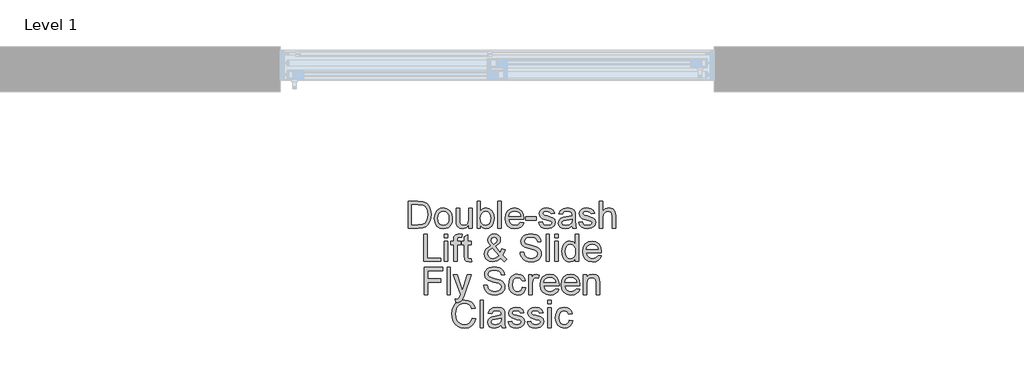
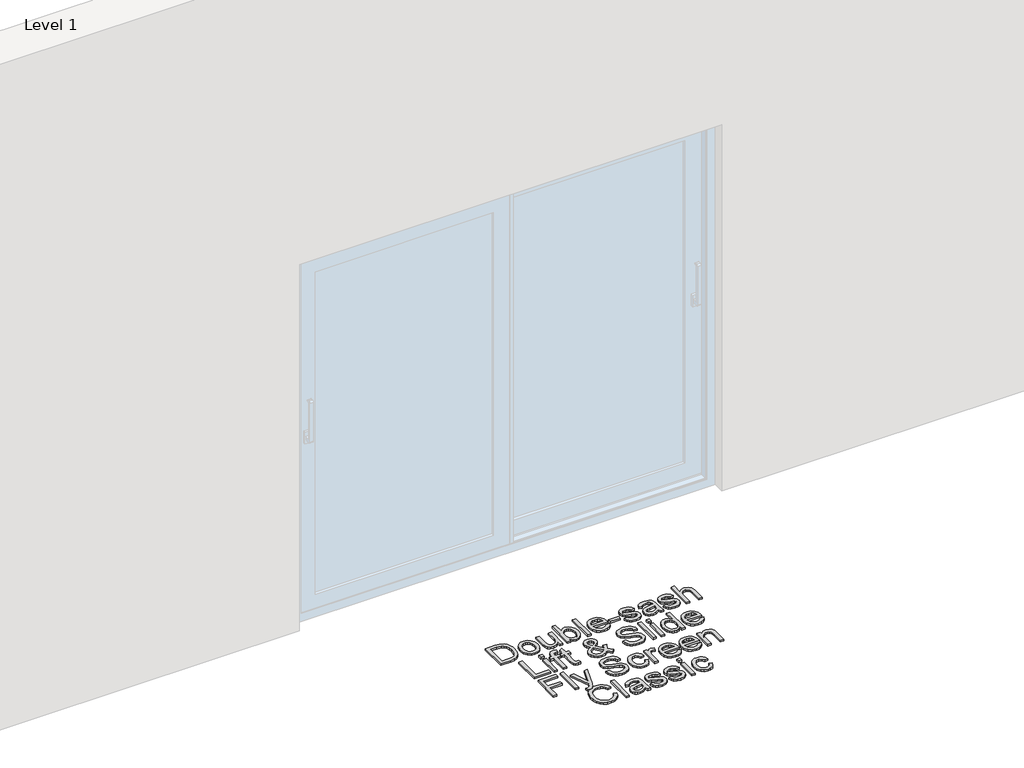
# One storey, part 7 of 17: 1 proxy.
"""IFC4 building model written with IfcOpenShell, lengths in millimetres."""

from ifc_helpers import new_model, si_unit, origin, origin_with_axes, place, context, project, spatial, polyline, outline, extrude, element, save

model = new_model("IFC4")

# Units and contexts
model_context = context("Model", 3, world=origin())
ifc_project = project(units=[si_unit("LENGTHUNIT", "METRE", prefix="MILLI")], contexts=[model_context])

# Site, building, storey
site = spatial("IfcSite", under=ifc_project)
building = spatial("IfcBuilding", under=site)
storey = spatial("IfcBuildingStorey", under=building, Name="Level 1", Elevation=0.0)

# Proxy
placement = place(None, origin())
element("IfcBuildingElementProxy", 1, Name="150mm Arial", ObjectType="150mm Arial", at=placement, inside=storey, context=model_context, shape_type="SweptSolid", body=[
    extrude(outline(polyline([(2688.4009515, -897.6627533), (2688.4009515, -746.9782881), (2740.3826774, -746.9782881), (2767.2748513, -749.1487919), (2789.4213474, -759.9277343), (2799.8416049, -771.4056526), (2807.2636242, -785.679474), (2811.7057993, -802.4732871), (2813.1865243, -821.5111803), (2809.1766105, -851.9166272), (2798.8759147, -873.8607883), (2785.1171281, -887.5276044), (2767.1093044, -895.0875794), (2742.884275, -897.6627533), (2688.4009515, -897.6627533)]), holes=[polyline([(2707.2365097, -878.8271952), (2740.5666184, -878.8271952), (2764.8100419, -876.1048684), (2778.7895577, -868.4161347), (2790.2490819, -849.7093353), (2794.3509661, -821.2168747), (2792.3414107, -800.6890594), (2786.3127445, -785.5323212), (2777.4054017, -775.1212607), (2766.7598165, -768.8304786), (2740.0515836, -765.8138463), (2707.2365097, -765.8138463), (2707.2365097, -878.8271952)])]), origin_with_axes(), (0.0, 0.0, 1.0), 10.0),
    extrude(outline(polyline([(2832.0220824, -842.3333013), (2836.0963755, -815.6526596), (2848.3192548, -796.8998749), (2863.4208107, -787.712022), (2881.5022108, -784.6494044), (2901.2896636, -788.3788081), (2917.0947938, -799.5670193), (2927.4552705, -817.3311212), (2930.9087627, -840.7881969), (2929.3820525, -859.8168931), (2924.8019216, -874.3022466), (2917.3017274, -885.150167), (2907.0148272, -893.2665635), (2894.7965464, -898.3295395), (2881.5022108, -900.0171981), (2861.4756347, -896.30159), (2845.6888986, -885.1547655), (2835.4387865, -867.0181831), (2832.0220824, -842.3333013)]), holes=[polyline([(2850.8576406, -842.2965131), (2853.0373414, -859.343245), (2859.5764439, -871.4879494), (2869.4172873, -878.7582173), (2881.5022108, -881.18164), (2893.531952, -878.7444217), (2903.3544013, -871.4327671), (2909.8935038, -859.1271143), (2912.0732046, -841.7079019), (2909.8797082, -825.1578106), (2903.299219, -813.1786531), (2893.4629742, -805.9083852), (2881.5022108, -803.4849626), (2869.4172873, -805.8991882), (2859.5764439, -813.141865), (2853.0373414, -825.2589782), (2850.8576406, -842.2965131)])]), origin_with_axes(), (0.0, 0.0, 1.0), 10.0),
    extrude(outline(polyline([(3022.7321087, -897.6627533), (3022.7321087, -878.6432542), (3007.9800407, -894.6737121), (2988.7398124, -900.0171981), (2971.0262943, -896.2648018), (2958.8126121, -886.8470227), (2953.2024117, -872.9778715), (2952.0987657, -855.4666885), (2952.0987657, -787.0038492), (2970.9343238, -787.0038492), (2970.9343238, -846.6007324), (2972.074758, -865.8041726), (2979.5243684, -877.0797557), (2993.5590665, -881.18164), (3009.2860218, -876.9877852), (3019.6786882, -865.5650493), (3022.7321087, -844.5773814), (3022.7321087, -787.0038492), (3041.5676669, -787.0038492), (3041.5676669, -897.6627533), (3022.7321087, -897.6627533)])), origin_with_axes(), (0.0, 0.0, 1.0), 10.0),
    extrude(outline(polyline([(3086.3021175, -897.6627533), (3067.4665594, -897.6627533), (3067.4665594, -746.9782881), (3086.3021175, -746.9782881), (3086.3021175, -802.8595632), (3099.490687, -789.2019441), (3115.8798299, -784.6494044), (3134.7521763, -788.7512887), (3149.3938797, -800.2843892), (3158.3885945, -818.2186365), (3161.6443501, -840.6778323), (3158.2736313, -865.8225667), (3148.161475, -884.5293661), (3133.322035, -896.1452401), (3115.7694653, -900.0171981), (3099.0216375, -895.0232), (3086.3021175, -880.0412058), (3086.3021175, -897.6627533)]), holes=[polyline([(3086.3021175, -841.5607491), (3087.5897045, -857.2693103), (3091.4524654, -867.9010999), (3101.3209, -877.861505), (3114.1507845, -881.18164), (3125.0216975, -878.7352247), (3134.3107179, -871.3959789), (3140.6842734, -859.2098878), (3142.808792, -842.2229367), (3140.7716454, -824.9876652), (3134.6602058, -812.9395299), (3125.6608925, -805.8486044), (3114.9601249, -803.4849626), (3104.089212, -805.9313778), (3094.8001916, -813.2706236), (3088.426636, -825.2359855), (3086.3021175, -841.5607491)])]), origin_with_axes(), (0.0, 0.0, 1.0), 10.0),
    extrude(outline(polyline([(3182.834353, -897.6627533), (3182.834353, -746.9782881), (3201.6699112, -746.9782881), (3201.6699112, -897.6627533), (3182.834353, -897.6627533)])), origin_with_axes(), (0.0, 0.0, 1.0), 10.0),
    extrude(outline(polyline([(3307.3991966, -864.7005266), (3325.8668728, -867.0549713), (3319.2128072, -880.9701078), (3308.5948131, -891.3719712), (3294.2520138, -897.8558914), (3276.4235326, -900.0171981), (3254.3230218, -896.2877944), (3237.3176765, -885.0995832), (3226.4743547, -867.1791315), (3222.8599141, -843.2530063), (3226.5111429, -818.5221391), (3237.4648293, -800.0268718), (3254.2402483, -788.4937713), (3275.3566748, -784.6494044), (3295.8155123, -788.4845742), (3312.1632684, -799.9900836), (3322.8824301, -818.4485627), (3326.455484, -843.1426417), (3326.3451194, -848.2194132), (3241.6954723, -848.2194132), (3244.9558265, -862.3184907), (3252.529597, -872.6835659), (3263.4602908, -879.0571214), (3276.7914146, -881.18164), (3295.2590908, -877.2453026), (3307.3991966, -864.7005266)]), holes=[polyline([(3241.6954723, -829.383855), (3307.6199258, -829.383855), (3305.072343, -819.4326471), (3300.0783449, -812.3141305), (3289.0970674, -805.6922545), (3275.2830984, -803.4849626), (3262.5865711, -805.2461976), (3252.0881386, -810.5299028), (3244.7902796, -818.765861), (3241.6954723, -829.383855)])]), origin_with_axes(), (0.0, 0.0, 1.0), 10.0),
    extrude(outline(polyline([(3335.873263, -852.9283027), (3335.873263, -834.0927446), (3394.7343823, -834.0927446), (3394.7343823, -852.9283027), (3335.873263, -852.9283027)])), origin_with_axes(), (0.0, 0.0, 1.0), 10.0),
    extrude(outline(polyline([(3408.8610509, -864.7005266), (3427.696609, -862.3460818), (3430.6672561, -870.4026975), (3436.4154123, -876.3255976), (3456.3914047, -881.18164), (3475.5948448, -876.7302678), (3481.8488387, -866.2824192), (3480.2761432, -861.4815591), (3475.5580566, -857.8211333), (3456.1706755, -852.4500561), (3427.8069736, -843.2346122), (3415.4277445, -832.4740638), (3411.2154956, -817.2805374), (3414.60001, -803.2458393), (3423.8338481, -792.5220791), (3435.808407, -786.9486669), (3452.0136089, -784.6494044), (3474.9326572, -788.3466185), (3489.5007842, -798.3530087), (3495.9755073, -815.2571864), (3477.1399492, -817.6116312), (3470.0582208, -807.2189648), (3453.4851369, -803.4849626), (3435.4589191, -807.0534179), (3430.0510538, -815.367551), (3432.295134, -820.8489927), (3439.3216801, -825.0060593), (3455.5452761, -829.015973), (3483.191608, -837.8819291), (3496.0306896, -847.9251076), (3500.6843969, -864.2958564), (3495.2213492, -882.3220741), (3479.4576058, -895.4002791), (3456.1338873, -900.0171981), (3437.1419793, -897.791512), (3423.2820251, -891.1144538), (3414.0297929, -880.0595999), (3408.8610509, -864.7005266)])), origin_with_axes(), (0.0, 0.0, 1.0), 10.0),
    extrude(outline(polyline([(3592.5077429, -883.5360847), (3574.2424018, -896.30159), (3554.0640744, -900.0171981), (3538.3233235, -897.782315), (3526.712048, -891.0776656), (3519.5521447, -880.8965314), (3517.1655103, -868.2321937), (3520.7707538, -853.3329729), (3530.2437152, -842.5172423), (3543.4322847, -836.3368247), (3559.7294571, -833.5041334), (3592.3973783, -827.0294103), (3592.5077429, -822.8355555), (3591.2109588, -814.4294519), (3587.3206067, -808.9296161), (3578.6201976, -804.846126), (3566.4984858, -803.4849626), (3547.4421985, -807.1086002), (3538.3555132, -819.966076), (3519.519955, -817.6116312), (3527.6685412, -799.2175314), (3544.0760782, -788.438589), (3568.926507, -784.6494044), (3591.7535848, -787.9971306), (3604.6478487, -796.4032342), (3610.423596, -809.1871335), (3611.343301, -825.6682469), (3611.343301, -849.10233), (3612.2997942, -881.8254334), (3616.0521906, -897.6627533), (3597.2166324, -897.6627533), (3592.5077429, -883.5360847)]), holes=[polyline([(3592.5077429, -845.8649684), (3562.1206901, -851.6407157), (3545.9154882, -854.6941363), (3538.5762424, -859.6605432), (3536.0010684, -866.9078185), (3541.6112688, -877.0981498), (3558.0739881, -881.18164), (3577.1302755, -876.6750855), (3589.4175341, -865.7673844), (3592.3973783, -851.1992574), (3592.5077429, -845.8649684)])]), origin_with_axes(), (0.0, 0.0, 1.0), 10.0),
    extrude(outline(polyline([(3630.1788592, -864.7005266), (3649.0144173, -862.3460818), (3651.9850644, -870.4026975), (3657.7332206, -876.3255976), (3677.709213, -881.18164), (3696.9126531, -876.7302678), (3703.166647, -866.2824192), (3701.5939515, -861.4815591), (3696.8758649, -857.8211333), (3677.4884838, -852.4500561), (3649.1247819, -843.2346122), (3636.7455528, -832.4740638), (3632.5333039, -817.2805374), (3635.9178183, -803.2458393), (3645.1516564, -792.5220791), (3657.1262153, -786.9486669), (3673.3314172, -784.6494044), (3696.2504655, -788.3466185), (3710.8185925, -798.3530087), (3717.2933156, -815.2571864), (3698.4577575, -817.6116312), (3691.3760291, -807.2189648), (3674.8029452, -803.4849626), (3656.7767274, -807.0534179), (3651.3688621, -815.367551), (3653.6129423, -820.8489927), (3660.6394884, -825.0060593), (3676.8630844, -829.015973), (3704.5094163, -837.8819291), (3717.3484979, -847.9251076), (3722.0022052, -864.2958564), (3716.5391575, -882.3220741), (3700.7754141, -895.4002791), (3677.4516956, -900.0171981), (3658.4597876, -897.791512), (3644.5998334, -891.1144538), (3635.3476012, -880.0595999), (3630.1788592, -864.7005266)])), origin_with_axes(), (0.0, 0.0, 1.0), 10.0),
    extrude(outline(polyline([(3743.1922081, -897.6627533), (3743.1922081, -746.9782881), (3762.0277662, -746.9782881), (3762.0277662, -802.3813166), (3776.7154549, -789.0823825), (3794.806052, -784.6494044), (3815.9592667, -789.4870527), (3828.7983484, -802.8595632), (3832.6611093, -827.6180215), (3832.6611093, -897.6627533), (3813.8255512, -897.6627533), (3813.8255512, -829.567796), (3812.326432, -817.7771781), (3807.8290746, -809.7021683), (3800.5817993, -805.039264), (3790.8329265, -803.4849626), (3775.4002768, -807.6788173), (3765.0995809, -819.046371), (3762.0277662, -838.8752105), (3762.0277662, -897.6627533), (3743.1922081, -897.6627533)])), origin_with_axes(), (0.0, 0.0, 1.0), 10.0),
    extrude(outline(polyline([(2773.1609632, -1080.6249801), (2773.1609632, -929.9405149), (2791.9965214, -929.9405149), (2791.9965214, -1061.789422), (2867.338754, -1061.789422), (2867.338754, -1080.6249801), (2773.1609632, -1080.6249801)])), origin_with_axes(), (0.0, 0.0, 1.0), 10.0),
    extrude(outline(polyline([(2886.1743121, -948.776073), (2886.1743121, -929.9405149), (2905.0098703, -929.9405149), (2905.0098703, -948.776073), (2886.1743121, -948.776073)])), origin_with_axes(), (0.0, 0.0, 1.0), 10.0),
    extrude(outline(polyline([(2886.1743121, -1080.6249801), (2886.1743121, -969.966076), (2905.0098703, -969.966076), (2905.0098703, -1080.6249801), (2886.1743121, -1080.6249801)])), origin_with_axes(), (0.0, 0.0, 1.0), 10.0),
    extrude(outline(polyline([(2937.9720971, -1080.6249801), (2937.9720971, -988.8016341), (2921.4909837, -988.8016341), (2921.4909837, -969.966076), (2937.9720971, -969.966076), (2937.9720971, -958.8192515), (2939.9586598, -943.1106903), (2949.5971681, -931.8902895), (2968.5798791, -927.5860701), (2985.7599682, -929.6462093), (2983.0008533, -947.3045451), (2972.1483344, -946.4216283), (2960.2841401, -949.5486252), (2956.8076552, -961.2104845), (2956.8076552, -969.966076), (2977.9976581, -969.966076), (2977.9976581, -988.8016341), (2956.8076552, -988.8016341), (2956.8076552, -1080.6249801), (2937.9720971, -1080.6249801)])), origin_with_axes(), (0.0, 0.0, 1.0), 10.0),
    extrude(outline(polyline([(3034.5043326, -1064.9164189), (3036.8587774, -1081.1768031), (3022.7688969, -1082.9794249), (3006.9867593, -1079.8524279), (2999.1140847, -1071.6486594), (2996.8332163, -1050.2747155), (2996.8332163, -988.8016341), (2982.7065477, -988.8016341), (2982.7065477, -969.966076), (2996.8332163, -969.966076), (2996.8332163, -943.0739021), (3015.6687744, -932.0006541), (3015.6687744, -969.966076), (3034.5043326, -969.966076), (3034.5043326, -988.8016341), (3015.6687744, -988.8016341), (3015.6687744, -1049.7228925), (3016.6620558, -1059.4349772), (3019.8810233, -1062.8746738), (3026.3005641, -1064.1438667), (3034.5043326, -1064.9164189)])), origin_with_axes(), (0.0, 0.0, 1.0), 10.0),
    extrude(outline(polyline([(3198.6164906, -1062.0101512), (3178.6404983, -1077.7371064), (3155.2799916, -1082.9794249), (3134.4946589, -1079.0982698), (3118.4917921, -1067.4548047), (3110.2420383, -1054.054703), (3107.4921204, -1039.1646793), (3109.7040109, -1025.9669127), (3116.3396824, -1014.1119154), (3127.3715437, -1003.6088844), (3142.7720038, -994.4670168), (3129.6202224, -975.4107295), (3126.3276786, -961.2840609), (3128.9212467, -948.5645409), (3136.7019508, -937.6292486), (3148.4097953, -930.0968647), (3162.7847843, -927.5860701), (3176.4607975, -929.9865001), (3187.3960898, -937.1877902), (3194.5697887, -947.7552005), (3196.9610217, -960.2539913), (3195.1905896, -970.7478252), (3189.8792933, -980.4507128), (3168.634108, -997.4836492), (3195.8941639, -1031.4391574), (3204.024356, -1010.5802482), (3222.8599141, -1014.6637384), (3209.5425859, -1045.6761906), (3232.2776932, -1068.4848743), (3218.1510246, -1082.9794249), (3198.6164906, -1062.0101512)]), holes=[polyline([(3159.1059644, -985.6010608), (3174.5937964, -973.9208074), (3178.1254635, -962.8291653), (3173.4717563, -951.0017591), (3161.8282911, -946.4216283), (3149.9273086, -950.9649709), (3145.1632367, -962.0566131), (3146.7819175, -968.9544005), (3151.6747481, -976.6247401), (3159.1059644, -985.6010608)]), polyline([(3185.9981382, -1048.4353055), (3152.3737238, -1006.4599699), (3131.6803616, -1022.2421075), (3126.3276786, -1036.6630817), (3128.1578915, -1045.5474319), (3133.6485303, -1054.7628758), (3142.4960923, -1061.798619), (3154.3970748, -1064.1438667), (3171.7059227, -1059.766071), (3185.9981382, -1048.4353055)])]), origin_with_axes(), (0.0, 0.0, 1.0), 10.0),
    extrude(outline(polyline([(3305.265481, -1028.8271952), (3324.1010392, -1028.8271952), (3330.1710921, -1047.6811474), (3344.9967365, -1059.6005241), (3367.584691, -1064.1438667), (3387.2663778, -1060.7041701), (3399.9767007, -1051.2496028), (3404.1521613, -1038.6128563), (3401.0251644, -1026.8590265), (3388.222871, -1018.3057701), (3360.7972682, -1011.1136771), (3331.2747381, -1001.8246567), (3315.2534772, -987.8083527), (3309.9743706, -969.0831592), (3311.6068469, -958.0512978), (3316.504276, -947.7643976), (3324.5378991, -939.0455943), (3335.5789574, -932.7180239), (3363.5012009, -927.5860701), (3393.2996425, -932.9571472), (3404.7223784, -939.5882202), (3413.1652702, -948.7392848), (3418.5087562, -959.840124), (3420.6332747, -972.3205207), (3401.7977166, -972.3205207), (3398.3396258, -961.0817258), (3391.1291387, -952.9699278), (3379.8627526, -948.0587031), (3364.2369649, -946.4216283), (3348.2432951, -948.040309), (3337.2712146, -952.8963514), (3330.9252502, -960.0424591), (3328.8099287, -968.5313362), (3330.3090479, -975.7694144), (3334.8064053, -981.591147), (3365.56134, -992.1125721), (3398.8914488, -1001.5671393), (3409.6290045, -1008.4005474), (3417.1200017, -1016.8342421), (3421.52079, -1026.7762531), (3422.9877195, -1038.1346097), (3421.3000608, -1049.7458851), (3416.2370849, -1060.6673819), (3408.0057252, -1070.0667668), (3396.8129155, -1077.1117071), (3383.353033, -1081.5124954), (3368.320455, -1082.9794249), (3349.8665744, -1081.3975323), (3334.6776466, -1076.6518546), (3322.5789274, -1068.7239976), (3313.3956731, -1057.5955672), (3307.5003642, -1044.0391157), (3305.265481, -1028.8271952)])), origin_with_axes(), (0.0, 0.0, 1.0), 10.0),
    extrude(outline(polyline([(3448.886612, -1080.6249801), (3448.886612, -929.9405149), (3467.7221701, -929.9405149), (3467.7221701, -1080.6249801), (3448.886612, -1080.6249801)])), origin_with_axes(), (0.0, 0.0, 1.0), 10.0),
    extrude(outline(polyline([(3495.9755073, -948.776073), (3495.9755073, -929.9405149), (3514.8110655, -929.9405149), (3514.8110655, -948.776073), (3495.9755073, -948.776073)])), origin_with_axes(), (0.0, 0.0, 1.0), 10.0),
    extrude(outline(polyline([(3495.9755073, -1080.6249801), (3495.9755073, -969.966076), (3514.8110655, -969.966076), (3514.8110655, -1080.6249801), (3495.9755073, -1080.6249801)])), origin_with_axes(), (0.0, 0.0, 1.0), 10.0),
    extrude(outline(polyline([(3611.343301, -1080.6249801), (3611.343301, -1062.8562797), (3598.8812984, -1077.9486386), (3581.655224, -1082.9794249), (3569.47833, -1081.158409), (3558.3315055, -1075.6953614), (3548.8953323, -1066.9719596), (3541.8503921, -1055.3698811), (3537.4633993, -1041.3581756), (3536.0010684, -1025.4058926), (3541.3905396, -995.42351), (3548.1227802, -983.5317245), (3557.5405592, -974.7853301), (3568.9311055, -969.4050559), (3581.5816476, -967.6116312), (3598.9456778, -972.743585), (3611.343301, -986.0793073), (3611.343301, -929.9405149), (3630.1788592, -929.9405149), (3630.1788592, -1080.6249801), (3611.343301, -1080.6249801)]), holes=[polyline([(3554.8366266, -1025.3323162), (3556.9611451, -1042.3698511), (3563.3347007, -1054.4869644), (3572.5961299, -1061.7296411), (3583.3842694, -1064.1438667), (3594.1678104, -1061.8400057), (3603.1947148, -1054.9284227), (3609.3061545, -1043.2803591), (3611.343301, -1026.767056), (3609.2693663, -1008.7132471), (3603.047562, -996.1960622), (3593.7907313, -988.8844076), (3582.6117172, -986.4471893), (3571.7132131, -988.7878385), (3562.7828777, -995.8097861), (3556.8231893, -1007.871717), (3554.8366266, -1025.3323162)])]), origin_with_axes(), (0.0, 0.0, 1.0), 10.0),
    extrude(outline(polyline([(3735.9081446, -1047.6627533), (3754.3758208, -1050.0171981), (3747.7217552, -1063.9323346), (3737.1037611, -1074.334198), (3722.7609618, -1080.8181182), (3704.9324806, -1082.9794249), (3682.8319697, -1079.2500212), (3665.8266245, -1068.06181), (3654.9833027, -1050.1413583), (3651.3688621, -1026.215233), (3655.0200909, -1001.4843659), (3665.9737773, -982.9890986), (3682.7491963, -971.455998), (3703.8656228, -967.6116312), (3724.3244603, -971.446801), (3740.6722164, -982.9523104), (3751.3913781, -1001.4107895), (3754.9644319, -1026.1048684), (3754.8540673, -1031.18164), (3670.2044203, -1031.18164), (3673.4647744, -1045.2807174), (3681.038545, -1055.6457926), (3691.9692388, -1062.0193482), (3705.3003626, -1064.1438667), (3723.7680388, -1060.2075294), (3735.9081446, -1047.6627533)]), holes=[polyline([(3670.2044203, -1012.3460818), (3736.1288738, -1012.3460818), (3733.581291, -1002.3948738), (3728.5872929, -995.2763572), (3717.6060153, -988.6544813), (3703.7920464, -986.4471893), (3691.0955191, -988.2084244), (3680.5970866, -993.4921296), (3673.2992275, -1001.7280877), (3670.2044203, -1012.3460818)])]), origin_with_axes(), (0.0, 0.0, 1.0), 10.0),
    extrude(outline(polyline([(2776.6926304, -1263.5872069), (2776.6926304, -1112.9027417), (2877.9337554, -1112.9027417), (2877.9337554, -1131.7382998), (2795.5281885, -1131.7382998), (2795.5281885, -1176.4727504), (2866.1615316, -1176.4727504), (2866.1615316, -1195.3083086), (2795.5281885, -1195.3083086), (2795.5281885, -1263.5872069), (2776.6926304, -1263.5872069)])), origin_with_axes(), (0.0, 0.0, 1.0), 10.0),
    extrude(outline(polyline([(2901.4782031, -1263.5872069), (2901.4782031, -1112.9027417), (2920.3137613, -1112.9027417), (2920.3137613, -1263.5872069), (2901.4782031, -1263.5872069)])), origin_with_axes(), (0.0, 0.0, 1.0), 10.0),
    extrude(outline(polyline([(2948.5670985, -1305.9672127), (2946.2126537, -1287.8306304), (2955.7775856, -1289.4860993), (2964.7171181, -1287.4075661), (2970.1985598, -1281.6134246), (2975.3489078, -1267.7442734), (2976.8204357, -1263.1825367), (2936.7948747, -1152.9283027), (2956.6605024, -1152.9283027), (2977.8872935, -1214.3645959), (2985.2817216, -1238.9391132), (2992.6761497, -1217.2340755), (3014.4915521, -1152.9283027), (3034.210027, -1152.9283027), (2995.6927821, -1266.2359572), (2985.6863918, -1290.8104745), (2974.7602966, -1304.0910145), (2960.081805, -1308.3216575), (2948.5670985, -1305.9672127)])), origin_with_axes(), (0.0, 0.0, 1.0), 10.0),
    extrude(outline(polyline([(3103.9604533, -1211.789422), (3122.7960114, -1211.789422), (3128.8660644, -1230.6433742), (3143.6917088, -1242.5627509), (3166.2796633, -1247.1060935), (3185.96135, -1243.6663968), (3198.6716729, -1234.2118296), (3202.8471336, -1221.575083), (3199.7201366, -1209.8212533), (3186.9178432, -1201.2679969), (3159.4922404, -1194.0759039), (3129.9697103, -1184.7868835), (3113.9484494, -1170.7705795), (3108.6693428, -1152.0453859), (3110.3018192, -1141.0135246), (3115.1992482, -1130.7266243), (3123.2328713, -1122.007821), (3134.2739297, -1115.6802507), (3162.1961731, -1110.5482969), (3191.9946147, -1115.919374), (3203.4173507, -1122.550447), (3211.8602425, -1131.7015116), (3217.2037284, -1142.8023508), (3219.328247, -1155.2827475), (3200.4926888, -1155.2827475), (3197.0345981, -1144.0439525), (3189.824111, -1135.9321546), (3178.5577248, -1131.0209299), (3162.9319371, -1129.383855), (3146.9382674, -1131.0025358), (3135.9661869, -1135.8585782), (3129.6202224, -1143.0046859), (3127.504901, -1151.4935629), (3129.0040201, -1158.7316412), (3133.5013775, -1164.5533738), (3164.2563123, -1175.0747988), (3197.5864211, -1184.5293661), (3208.3239768, -1191.3627742), (3215.8149739, -1199.7964689), (3220.2157623, -1209.7384798), (3221.6826917, -1221.0968364), (3219.9950331, -1232.7081119), (3214.9320571, -1243.6296086), (3206.7006975, -1253.0289936), (3195.5078878, -1260.0739338), (3182.0480053, -1264.4747222), (3167.0154273, -1265.9416516), (3148.5615467, -1264.3597591), (3133.3726188, -1259.6140813), (3121.2738997, -1251.6862243), (3112.0906454, -1240.557794), (3106.1953364, -1227.0013425), (3103.9604533, -1211.789422)])), origin_with_axes(), (0.0, 0.0, 1.0), 10.0),
    extrude(outline(polyline([(3318.2149273, -1223.5616458), (3337.0504854, -1225.9160906), (3331.7989699, -1242.6685169), (3321.9305354, -1255.3282561), (3308.3740839, -1263.2883028), (3292.0585174, -1265.9416516), (3272.0227442, -1262.2398391), (3256.3555698, -1251.1344013), (3246.2434134, -1233.1127821), (3242.8726947, -1208.662425), (3244.312033, -1191.9008016), (3248.6300479, -1177.3740613), (3255.8957173, -1165.6432242), (3266.1780191, -1157.2693103), (3278.4790733, -1152.247721), (3291.801, -1150.573858), (3307.7164948, -1152.8731204), (3320.4406133, -1159.7709078), (3329.5686853, -1170.8993382), (3334.6960407, -1185.8905295), (3315.8604825, -1188.2449743), (3307.1232851, -1174.1366998), (3291.9481528, -1169.4094161), (3279.7758573, -1171.7362697), (3270.1143564, -1178.7168306), (3263.8097787, -1190.7281777), (3261.7082528, -1208.1473902), (3263.7637935, -1225.8011274), (3269.9304154, -1237.8538613), (3279.4171724, -1244.7930354), (3291.433118, -1247.1060935), (3301.1865894, -1245.6621567), (3309.1834243, -1241.3303462), (3315.0005583, -1234.0002974), (3318.2149273, -1223.5616458)])), origin_with_axes(), (0.0, 0.0, 1.0), 10.0),
    extrude(outline(polyline([(3353.5315988, -1263.5872069), (3353.5315988, -1152.9283027), (3370.0127122, -1152.9283027), (3370.0127122, -1169.2990515), (3381.7113596, -1154.2158897), (3393.4835835, -1150.573858), (3412.392718, -1156.3863935), (3406.1019359, -1173.2721771), (3392.8581841, -1169.4094161), (3382.2080003, -1173.1250243), (3375.4205775, -1183.4257201), (3372.367157, -1205.4250634), (3372.367157, -1263.5872069), (3353.5315988, -1263.5872069)])), origin_with_axes(), (0.0, 0.0, 1.0), 10.0),
    extrude(outline(polyline([(3501.6408901, -1230.6249801), (3520.1085662, -1232.9794249), (3513.4545006, -1246.8945613), (3502.8365065, -1257.2964248), (3488.4937073, -1263.7803449), (3470.6652261, -1265.9416516), (3448.5647152, -1262.2122479), (3431.55937, -1251.0240367), (3420.7160482, -1233.1035851), (3417.1016076, -1209.1774598), (3420.7528364, -1184.4465927), (3431.7065228, -1165.9513254), (3448.4819418, -1154.4182248), (3469.5983683, -1150.573858), (3490.0572057, -1154.4090278), (3506.4049619, -1165.9145372), (3517.1241235, -1184.3730163), (3520.6971774, -1209.0670952), (3520.5868128, -1214.1438667), (3435.9371657, -1214.1438667), (3439.1975199, -1228.2429442), (3446.7712905, -1238.6080194), (3457.7019843, -1244.981575), (3471.0331081, -1247.1060935), (3489.5007842, -1243.1697561), (3501.6408901, -1230.6249801)]), holes=[polyline([(3435.9371657, -1195.3083086), (3501.8616193, -1195.3083086), (3499.3140364, -1185.3571006), (3494.3200384, -1178.238584), (3483.3387608, -1171.6167081), (3469.5247919, -1169.4094161), (3456.8282645, -1171.1706512), (3446.3298321, -1176.4543563), (3439.031973, -1184.6903145), (3435.9371657, -1195.3083086)])]), origin_with_axes(), (0.0, 0.0, 1.0), 10.0),
    extrude(outline(polyline([(3617.0086838, -1230.6249801), (3635.4763599, -1232.9794249), (3628.8222943, -1246.8945613), (3618.2043002, -1257.2964248), (3603.8615009, -1263.7803449), (3586.0330198, -1265.9416516), (3563.9325089, -1262.2122479), (3546.9271637, -1251.0240367), (3536.0838419, -1233.1035851), (3532.4694013, -1209.1774598), (3536.1206301, -1184.4465927), (3547.0743165, -1165.9513254), (3563.8497354, -1154.4182248), (3584.966162, -1150.573858), (3605.4249994, -1154.4090278), (3621.7727556, -1165.9145372), (3632.4919172, -1184.3730163), (3636.0649711, -1209.0670952), (3635.9546065, -1214.1438667), (3551.3049594, -1214.1438667), (3554.5653136, -1228.2429442), (3562.1390842, -1238.6080194), (3573.069778, -1244.981575), (3586.4009018, -1247.1060935), (3604.8685779, -1243.1697561), (3617.0086838, -1230.6249801)]), holes=[polyline([(3551.3049594, -1195.3083086), (3617.2294129, -1195.3083086), (3614.6818301, -1185.3571006), (3609.687832, -1178.238584), (3598.7065545, -1171.6167081), (3584.8925856, -1169.4094161), (3572.1960582, -1171.1706512), (3561.6976258, -1176.4543563), (3554.3997667, -1184.6903145), (3551.3049594, -1195.3083086)])]), origin_with_axes(), (0.0, 0.0, 1.0), 10.0),
    extrude(outline(polyline([(3654.9005293, -1263.5872069), (3654.9005293, -1152.9283027), (3673.7360874, -1152.9283027), (3673.7360874, -1168.3793465), (3688.1386675, -1155.0252301), (3707.8019602, -1150.573858), (3725.5890546, -1154.1607074), (3737.7291605, -1163.5784865), (3743.3761491, -1177.4292436), (3744.3694305, -1195.6394024), (3744.3694305, -1263.5872069), (3725.5338723, -1263.5872069), (3725.5338723, -1198.1777881), (3723.3633686, -1181.5127338), (3715.693029, -1172.70196), (3702.7619768, -1169.4094161), (3691.7301155, -1171.2580231), (3682.326132, -1176.8038442), (3675.8835986, -1187.5184073), (3673.7360874, -1204.8732404), (3673.7360874, -1263.5872069), (3654.9005293, -1263.5872069)])), origin_with_axes(), (0.0, 0.0, 1.0), 10.0),
    extrude(outline(polyline([(3041.5676669, -1392.9858151), (3060.403225, -1397.8418575), (3051.7120129, -1419.790617), (3038.0727879, -1435.8256735), (3020.1569348, -1445.6343272), (2998.6358381, -1448.9038784), (2976.7882461, -1446.429872), (2959.4380115, -1439.0078527), (2946.1390773, -1426.8953381), (2936.4453868, -1410.3498453), (2930.5270852, -1390.8980848), (2928.554318, -1370.0667668), (2930.7846026, -1348.0950147), (2937.4754564, -1329.1215008), (2948.2773914, -1313.7486319), (2962.8409199, -1302.5788148), (2980.1129796, -1295.7775964), (2999.0405083, -1293.5105237), (3019.6924838, -1296.4443826), (3036.7668069, -1305.2459593), (3049.7300487, -1319.3726279), (3058.0487803, -1338.2817625), (3039.2132221, -1342.7699228), (3032.6833167, -1329.0341288), (3023.7621783, -1319.6117512), (3012.3394424, -1314.1624992), (2998.3047443, -1312.3460818), (2982.1271335, -1314.3602357), (2968.8373964, -1320.4026975), (2958.7528313, -1329.8388707), (2952.1907362, -1342.0341588), (2947.3898761, -1370.0299786), (2948.8108203, -1387.430797), (2953.073653, -1402.4771706), (2960.3393224, -1414.5942838), (2970.7687769, -1423.2073211), (2983.2721662, -1428.3530705), (2996.7596399, -1430.0683203), (3012.4819967, -1427.7322696), (3025.5831942, -1420.7241176), (3035.4746214, -1409.1174406), (3041.5676669, -1392.9858151)])), origin_with_axes(), (0.0, 0.0, 1.0), 10.0),
    extrude(outline(polyline([(3083.9476727, -1446.5494336), (3083.9476727, -1295.8649684), (3102.7832309, -1295.8649684), (3102.7832309, -1446.5494336), (3083.9476727, -1446.5494336)])), origin_with_axes(), (0.0, 0.0, 1.0), 10.0),
    extrude(outline(polyline([(3201.6699112, -1432.422765), (3183.4045701, -1445.1882703), (3163.2262427, -1448.9038784), (3147.4854918, -1446.6689953), (3135.8742164, -1439.9643459), (3128.714313, -1429.7832117), (3126.3276786, -1417.118874), (3129.9329221, -1402.2196532), (3139.4058835, -1391.4039226), (3152.594453, -1385.223505), (3168.8916254, -1382.3908137), (3201.5595466, -1375.9160906), (3201.6699112, -1371.7222358), (3200.3731272, -1363.3161322), (3196.4827751, -1357.8162964), (3187.7823659, -1353.7328063), (3175.6606541, -1352.3716429), (3156.6043668, -1355.9952805), (3147.5176815, -1368.8527563), (3128.6821234, -1366.4983115), (3136.8307095, -1348.1042117), (3153.2382465, -1337.3252693), (3178.0886753, -1333.5360847), (3200.9157531, -1336.8838109), (3213.810017, -1345.2899145), (3219.5857644, -1358.0738138), (3220.5054693, -1374.5549272), (3220.5054693, -1397.9890103), (3221.4619625, -1430.7121138), (3225.2143589, -1446.5494336), (3206.3788007, -1446.5494336), (3201.6699112, -1432.422765)]), holes=[polyline([(3201.6699112, -1394.7516487), (3171.2828584, -1400.527396), (3155.0776565, -1403.5808166), (3147.7384107, -1408.5472235), (3145.1632367, -1415.7944988), (3150.7734372, -1425.9848301), (3167.2361564, -1430.0683203), (3186.2924438, -1425.5617658), (3198.5797024, -1414.6540647), (3201.5595466, -1400.0859377), (3201.6699112, -1394.7516487)])]), origin_with_axes(), (0.0, 0.0, 1.0), 10.0),
    extrude(outline(polyline([(3239.3410275, -1413.5872069), (3258.1765857, -1411.2327621), (3261.1472328, -1419.2893778), (3266.8953889, -1425.2122779), (3286.8713813, -1430.0683203), (3306.0748214, -1425.6169481), (3312.3288153, -1415.1690995), (3310.7561198, -1410.3682394), (3306.0380332, -1406.7078136), (3286.6506521, -1401.3367364), (3258.2869503, -1392.1212925), (3245.9077211, -1381.3607441), (3241.6954723, -1366.1672177), (3245.0799866, -1352.1325196), (3254.3138247, -1341.4087594), (3266.2883836, -1335.8353472), (3282.4935855, -1333.5360847), (3305.4126338, -1337.2332988), (3319.9807608, -1347.239689), (3326.455484, -1364.1438667), (3307.6199258, -1366.4983115), (3300.5381974, -1356.1056451), (3283.9651135, -1352.3716429), (3265.9388958, -1355.9400982), (3260.5310304, -1364.2542313), (3262.7751106, -1369.7356731), (3269.8016567, -1373.8927396), (3286.0252527, -1377.9026533), (3313.6715846, -1386.7686094), (3326.5106663, -1396.8117879), (3331.1643735, -1413.1825367), (3325.7013259, -1431.2087544), (3309.9375824, -1444.2869594), (3286.6138639, -1448.9038784), (3267.6219559, -1446.6781923), (3253.7620017, -1440.0011341), (3244.5097695, -1428.9462802), (3239.3410275, -1413.5872069)])), origin_with_axes(), (0.0, 0.0, 1.0), 10.0),
    extrude(outline(polyline([(3345.2910421, -1413.5872069), (3364.1266003, -1411.2327621), (3367.0972474, -1419.2893778), (3372.8454036, -1425.2122779), (3392.8213959, -1430.0683203), (3412.024836, -1425.6169481), (3418.27883, -1415.1690995), (3416.7061344, -1410.3682394), (3411.9880478, -1406.7078136), (3392.6006667, -1401.3367364), (3364.2369649, -1392.1212925), (3351.8577357, -1381.3607441), (3347.6454869, -1366.1672177), (3351.0300012, -1352.1325196), (3360.2638393, -1341.4087594), (3372.2383983, -1335.8353472), (3388.4436001, -1333.5360847), (3411.3626484, -1337.2332988), (3425.9307755, -1347.239689), (3432.4054986, -1364.1438667), (3413.5699404, -1366.4983115), (3406.488212, -1356.1056451), (3389.9151281, -1352.3716429), (3371.8889104, -1355.9400982), (3366.481045, -1364.2542313), (3368.7251252, -1369.7356731), (3375.7516713, -1373.8927396), (3391.9752673, -1377.9026533), (3419.6215992, -1386.7686094), (3432.4606809, -1396.8117879), (3437.1143881, -1413.1825367), (3431.6513405, -1431.2087544), (3415.887597, -1444.2869594), (3392.5638785, -1448.9038784), (3373.5719705, -1446.6781923), (3359.7120163, -1440.0011341), (3350.4597841, -1428.9462802), (3345.2910421, -1413.5872069)])), origin_with_axes(), (0.0, 0.0, 1.0), 10.0),
    extrude(outline(polyline([(3458.304391, -1314.7005266), (3458.304391, -1295.8649684), (3477.1399492, -1295.8649684), (3477.1399492, -1314.7005266), (3458.304391, -1314.7005266)])), origin_with_axes(), (0.0, 0.0, 1.0), 10.0),
    extrude(outline(polyline([(3458.304391, -1446.5494336), (3458.304391, -1335.8905295), (3477.1399492, -1335.8905295), (3477.1399492, -1446.5494336), (3458.304391, -1446.5494336)])), origin_with_axes(), (0.0, 0.0, 1.0), 10.0),
    extrude(outline(polyline([(3576.0266295, -1406.5238726), (3594.8621876, -1408.8783173), (3589.6106722, -1425.6307437), (3579.7422376, -1438.2904829), (3566.1857861, -1446.2505295), (3549.8702196, -1448.9038784), (3529.8344465, -1445.2020658), (3514.167272, -1434.0966281), (3504.0551157, -1416.0750089), (3500.6843969, -1391.6246518), (3502.1237352, -1374.8630284), (3506.4417501, -1360.3362881), (3513.7074195, -1348.605451), (3523.9897213, -1340.231537), (3536.2907755, -1335.2099478), (3549.6127022, -1333.5360847), (3565.5281971, -1335.8353472), (3578.2523156, -1342.7331346), (3587.3803876, -1353.861565), (3592.5077429, -1368.8527563), (3573.6721847, -1371.207201), (3564.9349873, -1357.0989265), (3549.759855, -1352.3716429), (3537.5875595, -1354.6984965), (3527.9260586, -1361.6790574), (3521.6214809, -1373.6904045), (3519.519955, -1391.109617), (3521.5754957, -1408.7633542), (3527.7421176, -1420.8160881), (3537.2288746, -1427.7552622), (3549.2448202, -1430.0683203), (3558.9982916, -1428.6243834), (3566.9951265, -1424.2925729), (3572.8122606, -1416.9625242), (3576.0266295, -1406.5238726)])), origin_with_axes(), (0.0, 0.0, 1.0), 10.0),
])

save(model, "model.ifc")
